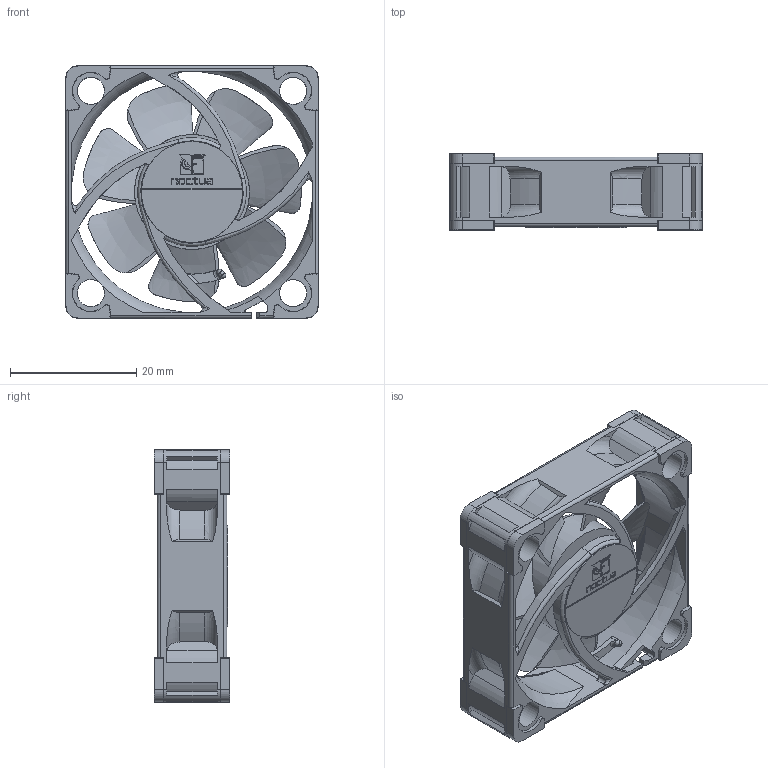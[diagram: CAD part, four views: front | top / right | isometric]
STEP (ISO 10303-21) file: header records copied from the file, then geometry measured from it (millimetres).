
FILE_DESCRIPTION(/* description */ ('140mm Desk Fan'),/* implementation_level */ '2;1');
FILE_NAME(/* name */ 'NF-A4x10_public_18032025',/* time_stamp */ '2026-04-10T08:38:30+02:00',/* author */ ('Andreas'),/* organization */ ('Rascom'),/* preprocessor_version */ 'ST-DEVELOPER v18.102',/* originating_system */ 'Solid Edge',/* authorisation */ 'Unknown');
FILE_SCHEMA (('AUTOMOTIVE_DESIGN {1 0 10303 214 3 1 1}'));
Length unit declared in the file: millimetre
Products named in the file (5): NF-A4x10_public_18032025; NF-A4x10_frame_public; NF-A4x10_impeller_public; NF-A4x10_rubber; Fan-Label-D16mm-Regular
Assembly tree (11 placements, depth 2):
  NF-A4x10_public_18032025
    NF-A4x10_frame_public
    NF-A4x10_impeller_public
    NF-A4x10_rubber  x8
    Fan-Label-D16mm-Regular
Bounding box: 40 x 12 x 40 mm (x, y, z)
Volume: 6253.8 mm3; surface area: 8754.1 mm2
Topology: 11 solids, 11 shells, 723 faces, 2017 edges, 1336 vertices
Faces by surface type: cylinder 293, plane 276, bspline 72, torus 66, cone 13, sphere 3
Full cylindrical faces by diameter (mm): 4.3 x4, 5.8 x4, 16 x2, 18.2 x1
Entity records: 28279 total; most frequent: CARTESIAN_POINT 11148, ORIENTED_EDGE 3652, DIRECTION 2864, EDGE_CURVE 1826, VERTEX_POINT 1216, AXIS2_PLACEMENT_3D 1039, LINE 786, VECTOR 786
